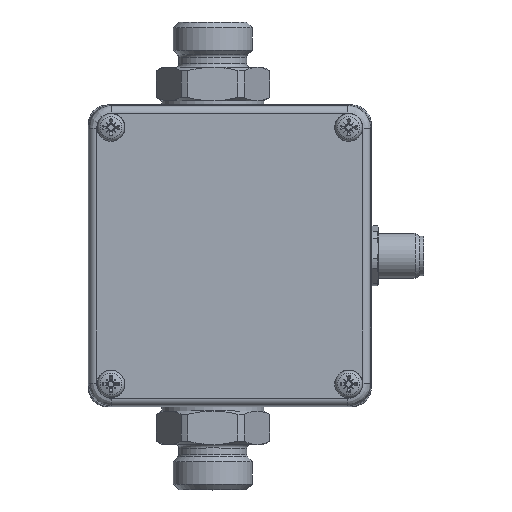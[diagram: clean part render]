
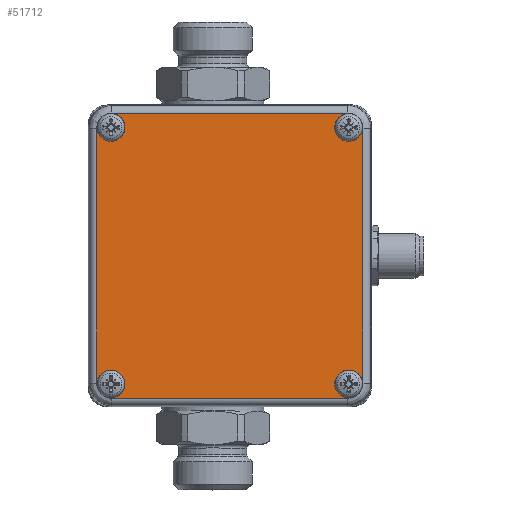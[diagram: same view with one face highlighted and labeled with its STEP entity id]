
A CAD part, top view. The second image highlights one B-rep face of the part: STEP entity #51712.
In plain terms, the highlighted planar face has unit normal (0, 0, 1) by its records, which use the part's own axes.
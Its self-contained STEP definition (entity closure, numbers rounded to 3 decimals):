
#191=ELLIPSE('',#54957,0.4,0.4);
#193=ELLIPSE('',#54960,0.4,0.4);
#194=ELLIPSE('',#54961,0.4,0.4);
#196=ELLIPSE('',#54964,0.4,0.4);
#197=ELLIPSE('',#54969,0.4,0.4);
#199=ELLIPSE('',#54972,0.4,0.4);
#200=ELLIPSE('',#54973,0.4,0.4);
#202=ELLIPSE('',#54976,0.4,0.4);
#1628=LINE('',#80481,#5928);
#1630=LINE('',#80657,#5930);
#1633=LINE('',#80664,#5933);
#1635=LINE('',#80895,#5935);
#5928=VECTOR('',#61252,6.255);
#5930=VECTOR('',#61276,6.755);
#5933=VECTOR('',#61283,6.755);
#5935=VECTOR('',#61303,6.255);
#13044=FACE_OUTER_BOUND('',#16183,.T.);
#16183=EDGE_LOOP('',(#36108,#36109,#36110,#36111,#36112,#36113,#36114,#36115,
#36116,#36117,#36118,#36119,#36120,#36121,#36122,#36123));
#19105=CIRCLE('',#54983,0.37);
#19106=CIRCLE('',#54985,0.37);
#19107=CIRCLE('',#54986,0.37);
#19108=CIRCLE('',#54987,0.37);
#21529=VERTEX_POINT('',#80478);
#21530=VERTEX_POINT('',#80480);
#21532=VERTEX_POINT('',#80555);
#21533=VERTEX_POINT('',#80556);
#21535=VERTEX_POINT('',#80566);
#21536=VERTEX_POINT('',#80639);
#21537=VERTEX_POINT('',#80640);
#21538=VERTEX_POINT('',#80647);
#21541=VERTEX_POINT('',#80655);
#21542=VERTEX_POINT('',#80660);
#21544=VERTEX_POINT('',#80765);
#21545=VERTEX_POINT('',#80766);
#21547=VERTEX_POINT('',#80776);
#21548=VERTEX_POINT('',#80879);
#21549=VERTEX_POINT('',#80880);
#21550=VERTEX_POINT('',#80887);
#26940=EDGE_CURVE('',#21529,#21530,#1628,.T.);
#26944=EDGE_CURVE('',#21533,#21529,#191,.T.);
#26947=EDGE_CURVE('',#21535,#21532,#193,.T.);
#26949=EDGE_CURVE('',#21537,#21538,#194,.T.);
#26952=EDGE_CURVE('',#21530,#21536,#196,.T.);
#26954=EDGE_CURVE('',#21541,#21535,#1630,.T.);
#26958=EDGE_CURVE('',#21538,#21542,#1633,.T.);
#26960=EDGE_CURVE('',#21545,#21541,#197,.T.);
#26963=EDGE_CURVE('',#21547,#21544,#199,.T.);
#26965=EDGE_CURVE('',#21549,#21550,#200,.T.);
#26968=EDGE_CURVE('',#21542,#21548,#202,.T.);
#26970=EDGE_CURVE('',#21550,#21547,#1635,.T.);
#26976=EDGE_CURVE('',#21545,#21544,#19105,.T.);
#26977=EDGE_CURVE('',#21549,#21548,#19106,.T.);
#26978=EDGE_CURVE('',#21537,#21536,#19107,.T.);
#26979=EDGE_CURVE('',#21533,#21532,#19108,.T.);
#36108=ORIENTED_EDGE('',*,*,#26947,.F.);
#36109=ORIENTED_EDGE('',*,*,#26954,.F.);
#36110=ORIENTED_EDGE('',*,*,#26960,.F.);
#36111=ORIENTED_EDGE('',*,*,#26976,.T.);
#36112=ORIENTED_EDGE('',*,*,#26963,.F.);
#36113=ORIENTED_EDGE('',*,*,#26970,.F.);
#36114=ORIENTED_EDGE('',*,*,#26965,.F.);
#36115=ORIENTED_EDGE('',*,*,#26977,.T.);
#36116=ORIENTED_EDGE('',*,*,#26968,.F.);
#36117=ORIENTED_EDGE('',*,*,#26958,.F.);
#36118=ORIENTED_EDGE('',*,*,#26949,.F.);
#36119=ORIENTED_EDGE('',*,*,#26978,.T.);
#36120=ORIENTED_EDGE('',*,*,#26952,.F.);
#36121=ORIENTED_EDGE('',*,*,#26940,.F.);
#36122=ORIENTED_EDGE('',*,*,#26944,.F.);
#36123=ORIENTED_EDGE('',*,*,#26979,.T.);
#47238=PLANE('',#54984);
#51712=ADVANCED_FACE('',(#13044),#47238,.T.);
#54957=AXIS2_PLACEMENT_3D('',#80563,#61256,#61257);
#54960=AXIS2_PLACEMENT_3D('',#80568,#61262,#61263);
#54961=AXIS2_PLACEMENT_3D('',#80648,#61264,#61265);
#54964=AXIS2_PLACEMENT_3D('',#80652,#61270,#61271);
#54969=AXIS2_PLACEMENT_3D('',#80773,#61284,#61285);
#54972=AXIS2_PLACEMENT_3D('',#80778,#61290,#61291);
#54973=AXIS2_PLACEMENT_3D('',#80888,#61292,#61293);
#54976=AXIS2_PLACEMENT_3D('',#80892,#61298,#61299);
#54983=AXIS2_PLACEMENT_3D('',#80906,#61319,#61320);
#54984=AXIS2_PLACEMENT_3D('',#80907,#61321,#61322);
#54985=AXIS2_PLACEMENT_3D('',#80908,#61323,#61324);
#54986=AXIS2_PLACEMENT_3D('',#80909,#61325,#61326);
#54987=AXIS2_PLACEMENT_3D('',#80910,#61327,#61328);
#61252=DIRECTION('',(1.,0.,0.));
#61256=DIRECTION('center_axis',(0.,0.,
-1.));
#61257=DIRECTION('ref_axis',(-0.707,0.707,0.));
#61262=DIRECTION('center_axis',(0.,0.,
-1.));
#61263=DIRECTION('ref_axis',(-0.707,0.707,0.));
#61264=DIRECTION('center_axis',(0.,0.,
-1.));
#61265=DIRECTION('ref_axis',(0.707,0.707,0.));
#61270=DIRECTION('center_axis',(0.,0.,
-1.));
#61271=DIRECTION('ref_axis',(0.707,0.707,0.));
#61276=DIRECTION('',(0.,1.,0.));
#61283=DIRECTION('',(0.,-1.,0.));
#61284=DIRECTION('center_axis',(0.,0.,
-1.));
#61285=DIRECTION('ref_axis',(-0.707,-0.707,0.));
#61290=DIRECTION('center_axis',(0.,0.,
-1.));
#61291=DIRECTION('ref_axis',(-0.707,-0.707,0.));
#61292=DIRECTION('center_axis',(0.,0.,
-1.));
#61293=DIRECTION('ref_axis',(0.707,-0.707,0.));
#61298=DIRECTION('center_axis',(0.,0.,
-1.));
#61299=DIRECTION('ref_axis',(0.707,-0.707,0.));
#61303=DIRECTION('',(-1.,0.,0.));
#61319=DIRECTION('center_axis',(0.,0.,
-1.));
#61320=DIRECTION('ref_axis',(1.,0.,0.));
#61321=DIRECTION('center_axis',(0.,0.,
1.));
#61322=DIRECTION('ref_axis',(-1.,0.,0.));
#61323=DIRECTION('center_axis',(0.,0.,
-1.));
#61324=DIRECTION('ref_axis',(1.,0.,0.));
#61325=DIRECTION('center_axis',(0.,0.,
-1.));
#61326=DIRECTION('ref_axis',(1.,0.,0.));
#61327=DIRECTION('center_axis',(0.,0.,
-1.));
#61328=DIRECTION('ref_axis',(1.,0.,0.));
#80478=CARTESIAN_POINT('',(-3.127,3.777,1.5));
#80480=CARTESIAN_POINT('',(3.127,3.777,1.5));
#80481=CARTESIAN_POINT('',(-3.127,3.777,1.5));
#80555=CARTESIAN_POINT('',(-3.49,3.546,1.5));
#80556=CARTESIAN_POINT('',(-3.296,3.74,1.5));
#80563=CARTESIAN_POINT('Origin',(-3.127,3.377,1.5));
#80566=CARTESIAN_POINT('',(-3.527,3.377,1.5));
#80568=CARTESIAN_POINT('Origin',(-3.127,3.377,1.5));
#80639=CARTESIAN_POINT('',(3.296,3.74,1.5));
#80640=CARTESIAN_POINT('',(3.49,3.546,1.5));
#80647=CARTESIAN_POINT('',(3.527,3.377,1.5));
#80648=CARTESIAN_POINT('Origin',(3.127,3.377,1.5));
#80652=CARTESIAN_POINT('Origin',(3.127,3.377,1.5));
#80655=CARTESIAN_POINT('',(-3.527,-3.377,1.5));
#80657=CARTESIAN_POINT('',(-3.527,-3.377,1.5));
#80660=CARTESIAN_POINT('',(3.527,-3.377,1.5));
#80664=CARTESIAN_POINT('',(3.527,3.377,1.5));
#80765=CARTESIAN_POINT('',(-3.296,-3.74,1.5));
#80766=CARTESIAN_POINT('',(-3.49,-3.546,1.5));
#80773=CARTESIAN_POINT('Origin',(-3.127,-3.377,1.5));
#80776=CARTESIAN_POINT('',(-3.127,-3.777,1.5));
#80778=CARTESIAN_POINT('Origin',(-3.127,-3.377,1.5));
#80879=CARTESIAN_POINT('',(3.49,-3.546,1.5));
#80880=CARTESIAN_POINT('',(3.296,-3.74,1.5));
#80887=CARTESIAN_POINT('',(3.127,-3.777,1.5));
#80888=CARTESIAN_POINT('Origin',(3.127,-3.377,1.5));
#80892=CARTESIAN_POINT('Origin',(3.127,-3.377,1.5));
#80895=CARTESIAN_POINT('',(3.127,-3.777,1.5));
#80906=CARTESIAN_POINT('Origin',(-3.15,-3.4,1.5));
#80907=CARTESIAN_POINT('Origin',(0.,0.,
1.5));
#80908=CARTESIAN_POINT('Origin',(3.15,-3.4,1.5));
#80909=CARTESIAN_POINT('Origin',(3.15,3.4,1.5));
#80910=CARTESIAN_POINT('Origin',(-3.15,3.4,1.5));
